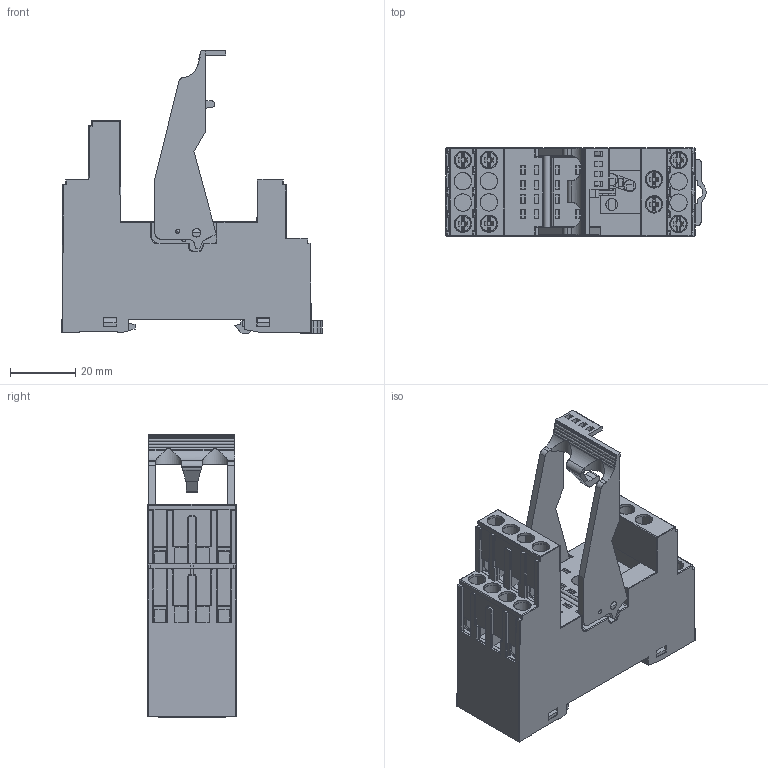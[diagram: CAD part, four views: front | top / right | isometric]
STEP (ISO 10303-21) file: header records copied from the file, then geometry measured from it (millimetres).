
FILE_DESCRIPTION(('STEP AP214'),'2;1');
FILE_NAME('94823_with_094913.stp','2011-12-13T12:29:57',(''),(''),'2007.1.106','THINKDESIGN','');
FILE_SCHEMA(('AUTOMOTIVE_DESIGN'));
Products named in the file (1): None
Bounding box: 79.56 x 27 x 86.36 mm (x, y, z)
Surface area: 37361.7 mm2 (no closed solid volume)
Topology: 0 solids, 0 shells, 1216 faces, 7071 edges, 7006 vertices
Faces by surface type: plane 776, cylinder 314, bspline 126
Full cylindrical faces by diameter (mm): 1.2 x6, 1.3 x2, 2.5 x2, 2.6 x2, 3.1 x1, 3.6 x3, 4.6 x1, 4.7 x8, 5.1 x1, 5.3 x14, 5.4 x1
Entity records: 75069 total; most frequent: CARTESIAN_POINT 25558, DIRECTION 8507, COMPOSITE_CURVE_SEGMENT 7045, TRIMMED_CURVE 5764, VECTOR 5317, LINE 5317, AXIS2_PLACEMENT_3D 1595, OUTER_BOUNDARY_CURVE 1216
